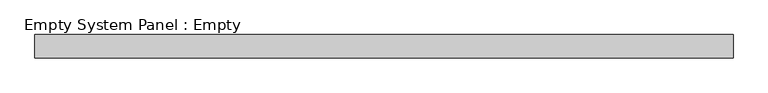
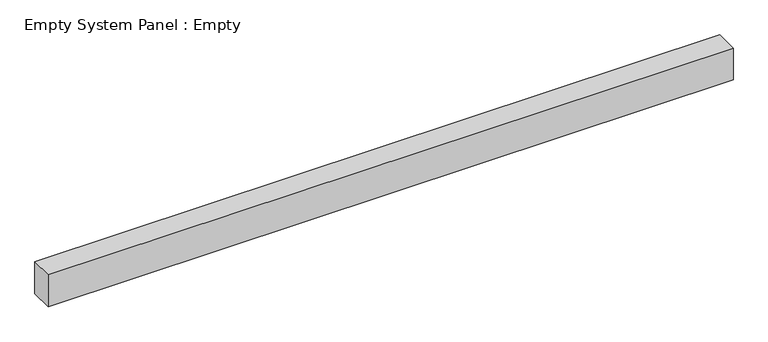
"""IFC4 building model written with IfcOpenShell, lengths in millimetres: plate geometry, Empty System Panel : Empty."""

from ifc_helpers import new_model, si_unit, origin, origin_with_axes, place, context, project, spatial, polyline, outline, extrude, source, transform, mapped, element, save


def empty_system_panel_empty_4cab923f(model_context):
    return source(origin(), model_context, "Body", "SweptSolid", [
        extrude(outline(polyline([(1500.0, -50.0), (-1500.0, -50.0), (-1500.0, 50.0), (1500.0, 50.0), (1500.0, -50.0)])), origin_with_axes(), (0.0, 0.0, 1.0), 147.6740982),
    ])


if __name__ == "__main__":
    model = new_model("IFC4")
    model_context = context("Model", 3, world=origin())
    ifc_project = project(units=[si_unit("LENGTHUNIT", "METRE", prefix="MILLI")], contexts=[model_context])
    site = spatial("IfcSite", under=ifc_project)
    building = spatial("IfcBuilding", under=site)
    placement = place(None, origin())
    empty_system_panel_empty_shape = empty_system_panel_empty_4cab923f(model_context)
    element("IfcPlate", 1, ObjectType="Empty System Panel : Empty", at=placement, inside=building, context=model_context, shape_type="MappedRepresentation", body=[
        mapped(empty_system_panel_empty_shape, transform((0.0, 0.0, 0.0), x_axis=(1.0, 0.0, 0.0), y_axis=(0.0, 1.0, 0.0), z_axis=(0.0, 0.0, 1.0))),
    ])
    save(model, "model.ifc")
